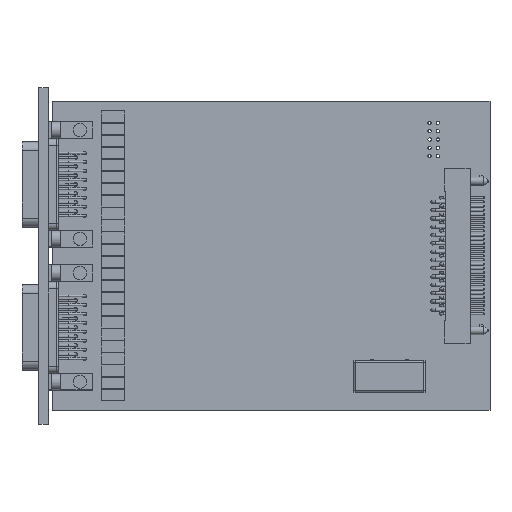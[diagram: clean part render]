
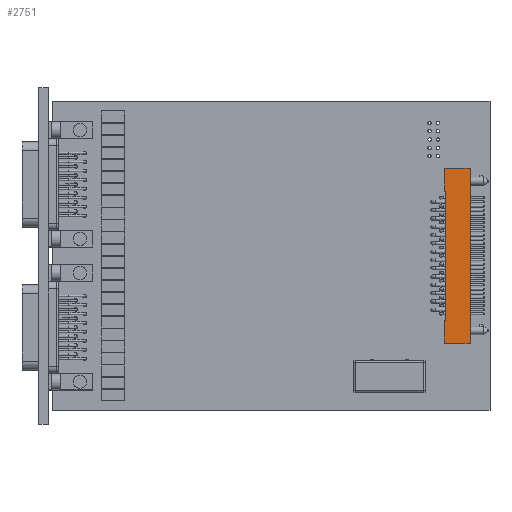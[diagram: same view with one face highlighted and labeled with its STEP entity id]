
A CAD part, top view. The second image highlights one B-rep face of the part: STEP entity #2751.
In plain terms, the highlighted planar face has unit normal (0, 0, 1).
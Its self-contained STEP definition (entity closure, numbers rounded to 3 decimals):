
#2751=ADVANCED_FACE('',(#20846),#20848,.F.);
#20846=FACE_BOUND('',#20847,.T.);
#20847=EDGE_LOOP('',(#35087,#35088,#35089,#35090,#35091,#35092,#35093,#35094));
#20848=PLANE('',#20849);
#20849=AXIS2_PLACEMENT_3D('',#20850,#20851,#20852);
#20850=CARTESIAN_POINT('',(120.02,20.5,6.363));
#20851=DIRECTION('',(0.,0.,-1.));
#20852=DIRECTION('',(-1.,0.,0.));
#35087=ORIENTED_EDGE('',*,*,#43750,.T.);
#35088=ORIENTED_EDGE('',*,*,#43793,.T.);
#35089=ORIENTED_EDGE('',*,*,#43791,.T.);
#35090=ORIENTED_EDGE('',*,*,#43789,.T.);
#35091=ORIENTED_EDGE('',*,*,#43787,.T.);
#35092=ORIENTED_EDGE('',*,*,#43756,.T.);
#35093=ORIENTED_EDGE('',*,*,#43754,.T.);
#35094=ORIENTED_EDGE('',*,*,#43752,.T.);
#43750=EDGE_CURVE('',#48727,#48725,#48728,.T.);
#43752=EDGE_CURVE('',#48730,#48727,#48731,.T.);
#43754=EDGE_CURVE('',#48733,#48730,#48734,.T.);
#43756=EDGE_CURVE('',#48736,#48733,#48737,.T.);
#43787=EDGE_CURVE('',#48797,#48736,#48798,.T.);
#43789=EDGE_CURVE('',#48800,#48797,#48801,.T.);
#43791=EDGE_CURVE('',#48803,#48800,#48804,.T.);
#43793=EDGE_CURVE('',#48725,#48803,#48806,.T.);
#48725=VERTEX_POINT('',#58017);
#48727=VERTEX_POINT('',#58021);
#48728=LINE('',#58022,#58023);
#48730=VERTEX_POINT('',#58028);
#48731=LINE('',#58029,#58030);
#48733=VERTEX_POINT('',#58035);
#48734=LINE('',#58036,#58037);
#48736=VERTEX_POINT('',#58042);
#48737=LINE('',#58043,#58044);
#48797=VERTEX_POINT('',#58194);
#48798=LINE('',#58195,#58196);
#48800=VERTEX_POINT('',#58201);
#48801=LINE('',#58202,#58203);
#48803=VERTEX_POINT('',#58208);
#48804=LINE('',#58209,#58210);
#48806=LINE('',#58215,#58216);
#58017=CARTESIAN_POINT('',(127.92,20.5,6.363));
#58021=CARTESIAN_POINT('',(120.02,20.5,6.363));
#58022=CARTESIAN_POINT('',(120.02,20.5,6.363));
#58023=VECTOR('',#58024,1.);
#58024=DIRECTION('',(1.,0.,0.));
#58028=CARTESIAN_POINT('',(120.02,27.5,6.363));
#58029=CARTESIAN_POINT('',(120.02,27.5,6.363));
#58030=VECTOR('',#58031,1.);
#58031=DIRECTION('',(0.,-1.,0.));
#58035=CARTESIAN_POINT('',(120.32,27.5,6.363));
#58036=CARTESIAN_POINT('',(120.32,27.5,6.363));
#58037=VECTOR('',#58038,1.);
#58038=DIRECTION('',(-1.,0.,0.));
#58042=CARTESIAN_POINT('',(120.32,67.,6.363));
#58043=CARTESIAN_POINT('',(120.32,67.,6.363));
#58044=VECTOR('',#58045,1.);
#58045=DIRECTION('',(0.,-1.,0.));
#58194=CARTESIAN_POINT('',(120.02,67.,6.363));
#58195=CARTESIAN_POINT('',(120.02,67.,6.363));
#58196=VECTOR('',#58197,1.);
#58197=DIRECTION('',(1.,0.,0.));
#58201=CARTESIAN_POINT('',(120.02,74.,6.363));
#58202=CARTESIAN_POINT('',(120.02,74.,6.363));
#58203=VECTOR('',#58204,1.);
#58204=DIRECTION('',(0.,-1.,0.));
#58208=CARTESIAN_POINT('',(127.92,74.,6.363));
#58209=CARTESIAN_POINT('',(127.92,74.,6.363));
#58210=VECTOR('',#58211,1.);
#58211=DIRECTION('',(-1.,0.,0.));
#58215=CARTESIAN_POINT('',(127.92,20.5,6.363));
#58216=VECTOR('',#58217,1.);
#58217=DIRECTION('',(0.,1.,0.));
